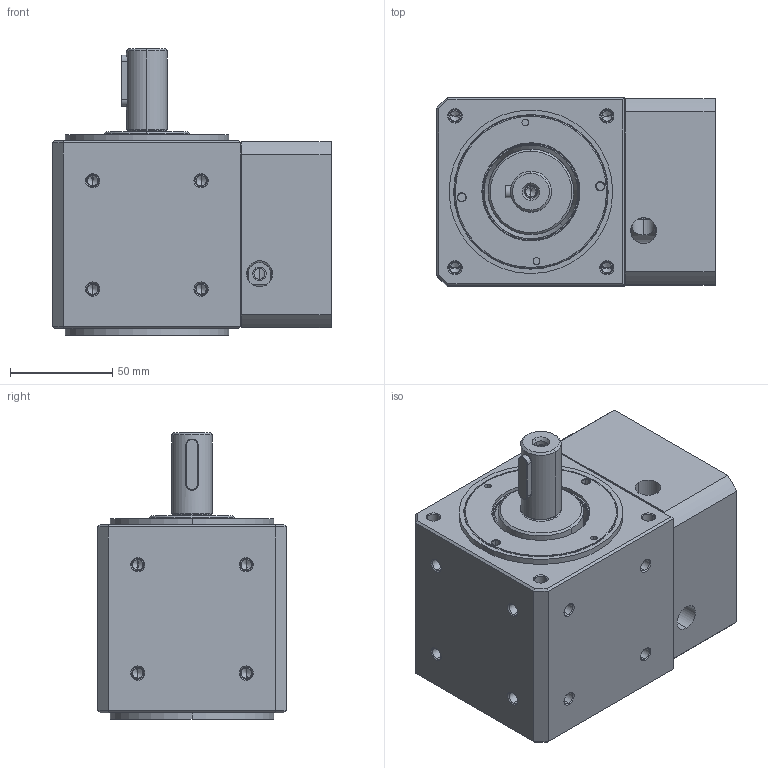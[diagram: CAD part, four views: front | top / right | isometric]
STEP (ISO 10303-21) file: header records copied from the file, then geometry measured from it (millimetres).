
FILE_DESCRIPTION (( 'STEP AP203' ), '1' );
FILE_NAME ('WS90SF-2-19-70-90-M6.STEP', '2012-12-10T06:58:56', ( 'user' ), ( 'SYNNEX' ), 'SwSTEP 2.0', 'SolidWorks 2008', '' );
FILE_SCHEMA (( 'CONFIG_CONTROL_DESIGN' ));
Length unit declared in the file: millimetre
Products named in the file (1): WS90SF-2-19-70-90-M6
Bounding box: 136.1 x 92 x 140 mm (x, y, z)
Volume: 861973.9 mm3; surface area: 201621.3 mm2
Topology: 12 solids, 12 shells, 923 faces, 2235 edges, 1352 vertices
Faces by surface type: cylinder 295, cone 277, plane 175, sphere 112, torus 64
Entity records: 31972 total; most frequent: CARTESIAN_POINT 10045, DIRECTION 4905, ORIENTED_EDGE 4350, EDGE_CURVE 2175, AXIS2_PLACEMENT_3D 2106, VERTEX_POINT 1352, CIRCLE 1182, EDGE_LOOP 1111
